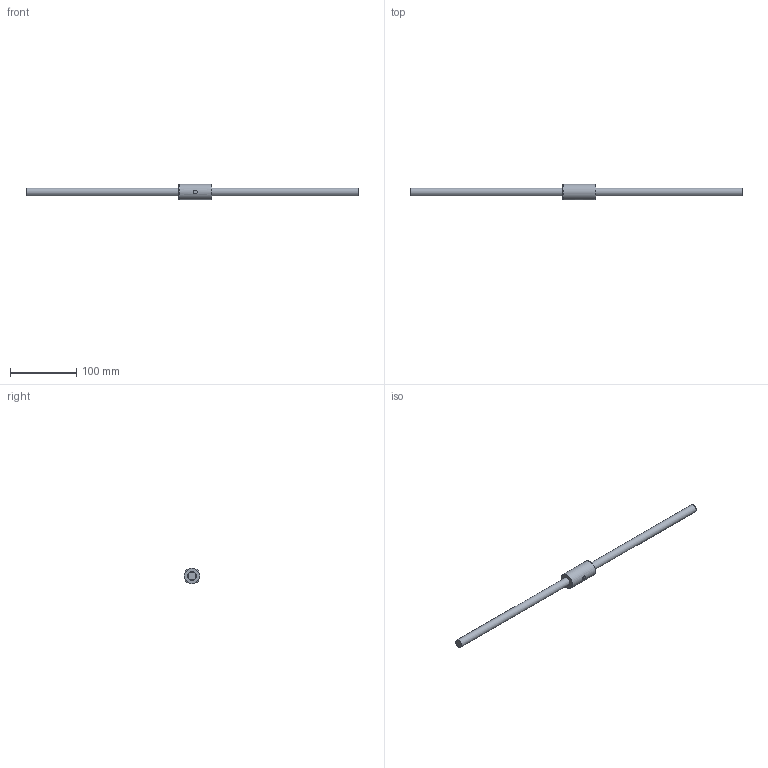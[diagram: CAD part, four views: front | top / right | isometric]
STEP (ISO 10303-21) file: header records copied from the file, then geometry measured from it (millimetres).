
FILE_DESCRIPTION (( 'STEP AP203' ), '1' );
FILE_NAME ('XCYAR01220A2-00.STEP', '2024-06-03T07:25:36', ( '' ), ( '' ), 'SwSTEP 2.0', 'SolidWorks 2022', '' );
FILE_SCHEMA (( 'CONFIG_CONTROL_DESIGN' ));
Length unit declared in the file: millimetre
Products named in the file (1): XCYAR01220A2-00
Bounding box: 500 x 24 x 24 mm (x, y, z)
Volume: 71921 mm3; surface area: 25604.9 mm2
Topology: 2 solids, 2 shells, 11 faces, 18 edges, 12 vertices
Faces by surface type: plane 5, cylinder 4, torus 2
Full cylindrical faces by diameter (mm): 6 x1, 12 x1, 13.5 x1, 24 x1
Entity records: 351 total; most frequent: CARTESIAN_POINT 93, DIRECTION 42, AXIS2_PLACEMENT_3D 21, EDGE_LOOP 20, ORIENTED_EDGE 20, FACE_OUTER_BOUND 17, ADVANCED_FACE 11, VERTEX_POINT 10
